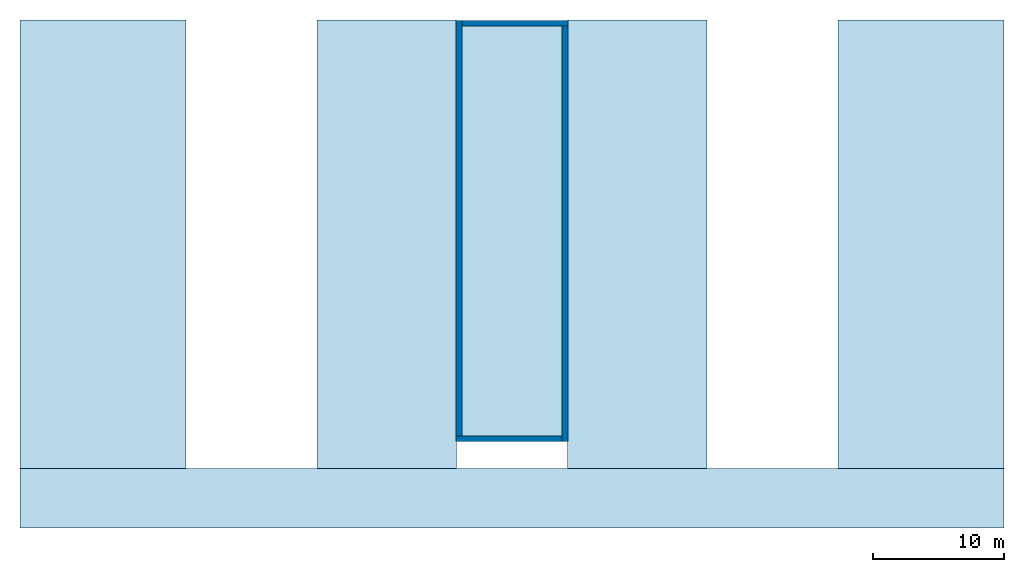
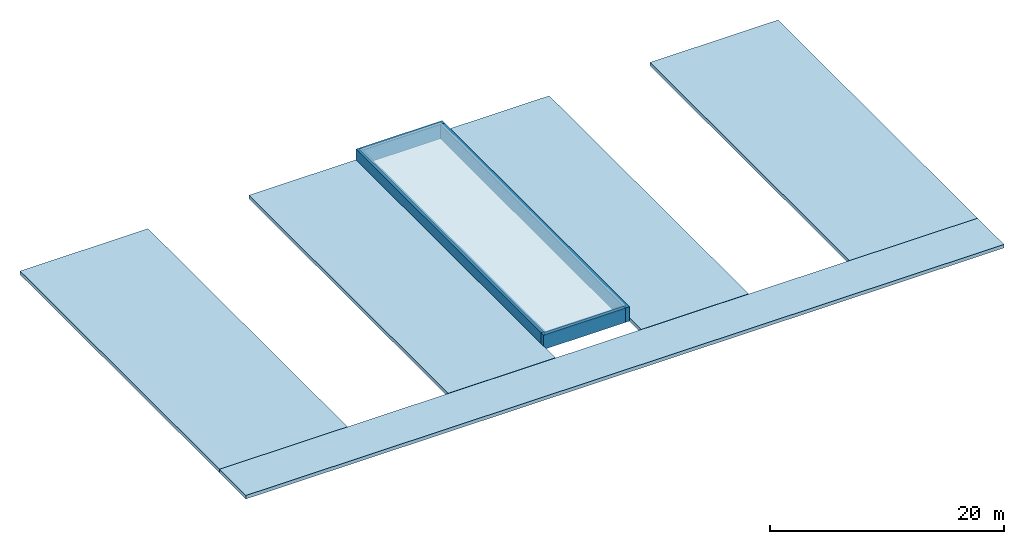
# One storey: 6 slabs, 4 walls, 6 elements without a shape of their own.
"""IFC2X3 building model written with IfcOpenShell, lengths in millimetres."""

from ifc_helpers import new_model, entity, si_unit, converted_unit, derived_unit, direction, frame, frame_2d, origin, origin_2d_with_axis, place, context, subcontext, project, spatial, rectangle, extrude, material, layer, layer_set, layer_usage, type_object, element, aggregate, save


model = new_model("IFC2X3")

# Units and contexts
model_context = context("Model", 3, precision=0.01, world=origin(), true_north=direction((6.12303176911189e-17, 1.0)))
body_context = subcontext(model_context, "Body", "Model", "MODEL_VIEW")
ifc_project = project(units=[si_unit("LENGTHUNIT", "METRE", prefix="MILLI"), si_unit("AREAUNIT", "SQUARE_METRE"), si_unit("VOLUMEUNIT", "CUBIC_METRE"), converted_unit("PLANEANGLEUNIT", "DEGREE", entity("IfcRatioMeasure", 0.0174532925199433), si_unit("PLANEANGLEUNIT", "RADIAN"), dimensions=[0, 0, 0, 0, 0, 0, 0]), si_unit("MASSUNIT", "GRAM", prefix="KILO"), derived_unit("MASSDENSITYUNIT", [(si_unit("MASSUNIT", "GRAM", prefix="KILO"), 1), (si_unit("LENGTHUNIT", "METRE"), -3)]), derived_unit("MOMENTOFINERTIAUNIT", [(si_unit("LENGTHUNIT", "METRE"), 4)]), si_unit("TIMEUNIT", "SECOND"), si_unit("FREQUENCYUNIT", "HERTZ"), si_unit("THERMODYNAMICTEMPERATUREUNIT", "DEGREE_CELSIUS"), derived_unit("THERMALTRANSMITTANCEUNIT", [(si_unit("MASSUNIT", "GRAM", prefix="KILO"), 1), (si_unit("THERMODYNAMICTEMPERATUREUNIT", "KELVIN"), -1), (si_unit("TIMEUNIT", "SECOND"), -3)]), derived_unit("VOLUMETRICFLOWRATEUNIT", [(si_unit("LENGTHUNIT", "METRE"), 3), (si_unit("TIMEUNIT", "SECOND"), -1)]), si_unit("ELECTRICCURRENTUNIT", "AMPERE"), si_unit("ELECTRICVOLTAGEUNIT", "VOLT"), si_unit("POWERUNIT", "WATT"), si_unit("FORCEUNIT", "NEWTON", prefix="KILO"), si_unit("ILLUMINANCEUNIT", "LUX"), si_unit("LUMINOUSFLUXUNIT", "LUMEN"), si_unit("LUMINOUSINTENSITYUNIT", "CANDELA"), derived_unit("USERDEFINED", [(si_unit("MASSUNIT", "GRAM", prefix="KILO"), -1), (si_unit("LENGTHUNIT", "METRE"), -2), (si_unit("TIMEUNIT", "SECOND"), 3), (si_unit("LUMINOUSFLUXUNIT", "LUMEN"), 1)]), derived_unit("LINEARVELOCITYUNIT", [(si_unit("LENGTHUNIT", "METRE"), 1), (si_unit("TIMEUNIT", "SECOND"), -1)]), si_unit("PRESSUREUNIT", "PASCAL"), derived_unit("USERDEFINED", [(si_unit("LENGTHUNIT", "METRE"), -2), (si_unit("MASSUNIT", "GRAM", prefix="KILO"), 1), (si_unit("TIMEUNIT", "SECOND"), -2)]), derived_unit("LINEARFORCEUNIT", [(si_unit("MASSUNIT", "GRAM", prefix="KILO"), 1), (si_unit("LENGTHUNIT", "METRE"), 1), (si_unit("TIMEUNIT", "SECOND"), -2), (si_unit("LENGTHUNIT", "METRE"), -1)]), derived_unit("PLANARFORCEUNIT", [(si_unit("MASSUNIT", "GRAM", prefix="KILO"), 1), (si_unit("LENGTHUNIT", "METRE"), 1), (si_unit("TIMEUNIT", "SECOND"), -2), (si_unit("LENGTHUNIT", "METRE"), -2)])], contexts=[model_context])

# Site, building, storey
site_placement = place(None, frame((10627.5135316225, 21939.0796949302, 0.0)))
site = spatial("IfcSite", under=ifc_project, at=site_placement, Name="Default", CompositionType="ELEMENT")
building_placement = place(site_placement, origin())
building = spatial("IfcBuilding", under=site, at=building_placement, CompositionType="ELEMENT")
storey_placement = place(building_placement, frame((0.0, 0.0, 11230.0)))
storey = spatial("IfcBuildingStorey", under=building, at=storey_placement, Name="TOP", CompositionType="ELEMENT", Elevation=11230.0)

# Roof, slab
roof_1_placement = place(storey_placement, frame((-10840.5135316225, -17419.0796949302, 0.0)))
roof_1 = element("IfcRoof", 1, at=roof_1_placement, inside=storey, Name="Basic Roof:Roof_Flat-4Felt-150Ins-50Scr-150Conc-12Plr", ObjectType="Basic Roof:Roof_Flat-4Felt-150Ins-50Scr-150Conc-12Plr", ShapeType="NOTDEFINED")
slab_type_1 = type_object("IfcSlabType", Name="Basic Roof:Roof_Flat-4Felt-150Ins-50Scr-150Conc-12Plr", PredefinedType="ROOF")
slab_1_placement = place(roof_1_placement, origin())
slab_1 = element("IfcSlab", 2, at=slab_1_placement, type_object=slab_type_1, Name="Basic Roof:Roof_Flat-4Felt-150Ins-50Scr-150Conc-12Plr", ObjectType="Basic Roof:Roof_Flat-4Felt-150Ins-50Scr-150Conc-12Plr", PredefinedType="NOTDEFINED", context=body_context, shape_type="SweptSolid", body=[
    extrude(rectangle(XDim=12638.0, YDim=34115.0, at=frame_2d((-4.54747350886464e-13, 0.0), x_axis=(1.0, 0.0))), frame((6319.0, 17057.5, 0.0)), (0.0, 0.0, 1.0), 366.499999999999),
])
aggregate(roof_1, [slab_1])

roof_2_placement = place(storey_placement, frame((51357.4864683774, -17419.0796949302, 0.0)))
roof_2 = element("IfcRoof", 3, at=roof_2_placement, inside=storey, Name="Basic Roof:Roof_Flat-4Felt-150Ins-50Scr-150Conc-12Plr", ObjectType="Basic Roof:Roof_Flat-4Felt-150Ins-50Scr-150Conc-12Plr", ShapeType="NOTDEFINED")
slab_type_2 = type_object("IfcSlabType", Name="Basic Roof:Roof_Flat-4Felt-150Ins-50Scr-150Conc-12Plr", PredefinedType="ROOF")
slab_2_placement = place(roof_2_placement, origin())
slab_2 = element("IfcSlab", 4, at=slab_2_placement, type_object=slab_type_2, Name="Basic Roof:Roof_Flat-4Felt-150Ins-50Scr-150Conc-12Plr", ObjectType="Basic Roof:Roof_Flat-4Felt-150Ins-50Scr-150Conc-12Plr", PredefinedType="NOTDEFINED", context=body_context, shape_type="SweptSolid", body=[
    extrude(rectangle(XDim=34115.0, YDim=12638.0, at=frame_2d((0.0, 0.0), x_axis=(0.0, 1.0))), frame((6319.0, 17057.5, 0.0)), (0.0, 0.0, 1.0), 366.499999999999),
])
aggregate(roof_2, [slab_2])

roof_3_placement = place(storey_placement, frame((11749.4864683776, -17399.0795116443, 0.0)))
roof_3 = element("IfcRoof", 5, at=roof_3_placement, inside=storey, Name="Basic Roof:Roof_Flat-4Felt-150Ins-50Scr-150Conc-12Plr", ObjectType="Basic Roof:Roof_Flat-4Felt-150Ins-50Scr-150Conc-12Plr", ShapeType="NOTDEFINED")
slab_type_3 = type_object("IfcSlabType", Name="Basic Roof:Roof_Flat-4Felt-150Ins-50Scr-150Conc-12Plr", PredefinedType="ROOF")
slab_3_placement = place(roof_3_placement, origin())
slab_3 = element("IfcSlab", 6, at=slab_3_placement, type_object=slab_type_3, Name="Basic Roof:Roof_Flat-4Felt-150Ins-50Scr-150Conc-12Plr", ObjectType="Basic Roof:Roof_Flat-4Felt-150Ins-50Scr-150Conc-12Plr", PredefinedType="NOTDEFINED", context=body_context, shape_type="SweptSolid", body=[
    extrude(rectangle(XDim=10592.9999999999, YDim=34094.9998167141, at=origin_2d_with_axis()), frame((5296.49999999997, 17047.499908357, 0.0)), (0.0, 0.0, 1.0), 366.499999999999),
])
aggregate(roof_3, [slab_3])

roof_4_placement = place(storey_placement, frame((30812.4864683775, -17399.0795116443, 0.0)))
roof_4 = element("IfcRoof", 7, at=roof_4_placement, inside=storey, Name="Basic Roof:Roof_Flat-4Felt-150Ins-50Scr-150Conc-12Plr", ObjectType="Basic Roof:Roof_Flat-4Felt-150Ins-50Scr-150Conc-12Plr", ShapeType="NOTDEFINED")
slab_type_4 = type_object("IfcSlabType", Name="Basic Roof:Roof_Flat-4Felt-150Ins-50Scr-150Conc-12Plr", PredefinedType="ROOF")
slab_4_placement = place(roof_4_placement, origin())
slab_4 = element("IfcSlab", 8, at=slab_4_placement, type_object=slab_type_4, Name="Basic Roof:Roof_Flat-4Felt-150Ins-50Scr-150Conc-12Plr", ObjectType="Basic Roof:Roof_Flat-4Felt-150Ins-50Scr-150Conc-12Plr", PredefinedType="NOTDEFINED", context=body_context, shape_type="SweptSolid", body=[
    extrude(rectangle(XDim=34094.9998167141, YDim=10592.9999999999, at=frame_2d((0.0, 0.0), x_axis=(0.0, 1.0))), frame((5296.49999999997, 17047.499908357, 0.0)), (0.0, 0.0, 1.0), 366.499999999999),
])
aggregate(roof_4, [slab_4])

roof_5_placement = place(storey_placement, frame((22527.4864683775, -15159.0796949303, 1200.0)))
roof_5 = element("IfcRoof", 9, at=roof_5_placement, inside=storey, Name="Basic Roof:Roof_Flat-4Felt-150Ins-50Scr-150Conc-12Plr", ObjectType="Basic Roof:Roof_Flat-4Felt-150Ins-50Scr-150Conc-12Plr", ShapeType="NOTDEFINED")
slab_type_5 = type_object("IfcSlabType", Name="Basic Roof:Roof_Flat-4Felt-150Ins-50Scr-150Conc-12Plr", PredefinedType="ROOF")
slab_5_placement = place(roof_5_placement, origin())
slab_5 = element("IfcSlab", 10, at=slab_5_placement, type_object=slab_type_5, Name="Basic Roof:Roof_Flat-4Felt-150Ins-50Scr-150Conc-12Plr", ObjectType="Basic Roof:Roof_Flat-4Felt-150Ins-50Scr-150Conc-12Plr", PredefinedType="NOTDEFINED", context=body_context, shape_type="SweptSolid", body=[
    extrude(rectangle(XDim=8084.99999999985, YDim=31634.9998167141, at=origin_2d_with_axis()), frame((4042.49999999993, 15817.499908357, 0.0)), (0.0, 0.0, 1.0), 366.499999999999),
])
aggregate(roof_5, [slab_5])

roof_6_placement = place(storey_placement, frame((-10840.5135316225, -21939.0796949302, 0.0)))
roof_6 = element("IfcRoof", 11, at=roof_6_placement, inside=storey, Name="Basic Roof:Roof_Flat-4Felt-150Ins-50Scr-150Conc-12Plr", ObjectType="Basic Roof:Roof_Flat-4Felt-150Ins-50Scr-150Conc-12Plr", ShapeType="NOTDEFINED")
slab_type_6 = type_object("IfcSlabType", Name="Basic Roof:Roof_Flat-4Felt-150Ins-50Scr-150Conc-12Plr", PredefinedType="ROOF")
slab_6_placement = place(roof_6_placement, origin())
slab_6 = element("IfcSlab", 12, at=slab_6_placement, type_object=slab_type_6, Name="Basic Roof:Roof_Flat-4Felt-150Ins-50Scr-150Conc-12Plr", ObjectType="Basic Roof:Roof_Flat-4Felt-150Ins-50Scr-150Conc-12Plr", PredefinedType="NOTDEFINED", context=body_context, shape_type="SweptSolid", body=[
    extrude(rectangle(XDim=74837.9999999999, YDim=4519.99999999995, at=frame_2d((0.0, -1.13686837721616e-12), x_axis=(1.0, 0.0))), frame((37419.0, 2260.0, 0.0)), (0.0, 0.0, 1.0), 366.499999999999),
])
aggregate(roof_6, [slab_6])

# Walls
ifc_material_1 = material(Name="Paint - White Lining")
ifc_layer_1 = layer(ifc_material_1, 15.0)
ifc_material_2 = material(Name="Concrete - Precast Concrete - 35 MPa")
ifc_layer_2 = layer(ifc_material_2, 400.0)
ifc_layer_3 = layer(ifc_material_1, 15.0)
ifc_layer_set = layer_set([ifc_layer_1, ifc_layer_2, ifc_layer_3], Name="Basic Wall:Mur430PentureBlanche")
ifc_layer_usage_1 = layer_usage(ifc_layer_set, "AXIS2", "NEGATIVE", 215.0)
wall_type = type_object("IfcWallType", Name="Basic Wall:Mur430PentureBlanche", PredefinedType="STANDARD", material=ifc_layer_set)
wall_1_placement = place(storey_placement, frame((22327.4864683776, -15159.0796949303, 0.0)))
element("IfcWallStandardCase", 13, at=wall_1_placement, inside=storey, type_object=wall_type, material=ifc_layer_usage_1, Name="Basic Wall:Mur430PentureBlanche", ObjectType="Basic Wall:Mur430PentureBlanche", context=body_context, shape_type="SweptSolid", body=[
    extrude(rectangle(XDim=8069.99999999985, YDim=430.000000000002, at=frame_2d((4034.99999999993, 0.0), x_axis=(-1.0, 0.0))), origin(), (0.0, 0.0, 1.0), 1500.0),
])
ifc_layer_usage_2 = layer_usage(ifc_layer_set, "AXIS2", "NEGATIVE", 215.0)
wall_2_placement = place(storey_placement, frame((22542.4864683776, 16675.9201217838, 0.0), z_axis=(0.0, 0.0, 1.0), x_axis=(0.0, -1.0, 0.0)))
element("IfcWallStandardCase", 14, at=wall_2_placement, inside=storey, type_object=wall_type, material=ifc_layer_usage_2, Name="Basic Wall:Mur430PentureBlanche", ObjectType="Basic Wall:Mur430PentureBlanche", context=body_context, shape_type="SweptSolid", body=[
    extrude(rectangle(XDim=31619.9998167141, YDim=429.999999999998, at=frame_2d((15809.999908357, 0.0), x_axis=(-1.0, 0.0))), origin(), (0.0, 0.0, 1.0), 1500.0),
])
ifc_layer_usage_3 = layer_usage(ifc_layer_set, "AXIS2", "NEGATIVE", 215.0)
wall_3_placement = place(storey_placement, frame((30827.4864683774, 16460.9201217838, 0.0), z_axis=(0.0, 0.0, 1.0), x_axis=(-1.0, 0.0, 0.0)))
element("IfcWallStandardCase", 15, at=wall_3_placement, inside=storey, type_object=wall_type, material=ifc_layer_usage_3, Name="Basic Wall:Mur430PentureBlanche", ObjectType="Basic Wall:Mur430PentureBlanche", context=body_context, shape_type="SweptSolid", body=[
    extrude(rectangle(XDim=8069.99999999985, YDim=430.000000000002, at=frame_2d((4034.99999999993, -5.6843418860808e-14), x_axis=(-1.0, 0.0))), origin(), (0.0, 0.0, 1.0), 1500.0),
])
ifc_layer_usage_4 = layer_usage(ifc_layer_set, "AXIS2", "NEGATIVE", 215.0)
wall_4_placement = place(storey_placement, frame((30612.4864683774, -15374.0796949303, 0.0), z_axis=(0.0, 0.0, 1.0), x_axis=(0.0, 1.0, 0.0)))
element("IfcWallStandardCase", 16, at=wall_4_placement, inside=storey, type_object=wall_type, material=ifc_layer_usage_4, Name="Basic Wall:Mur430PentureBlanche", ObjectType="Basic Wall:Mur430PentureBlanche", context=body_context, shape_type="SweptSolid", body=[
    extrude(rectangle(XDim=31619.9998167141, YDim=429.999999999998, at=frame_2d((15809.999908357, 0.0), x_axis=(-1.0, 0.0))), origin(), (0.0, 0.0, 1.0), 1500.0),
])

save(model, "model.ifc")
